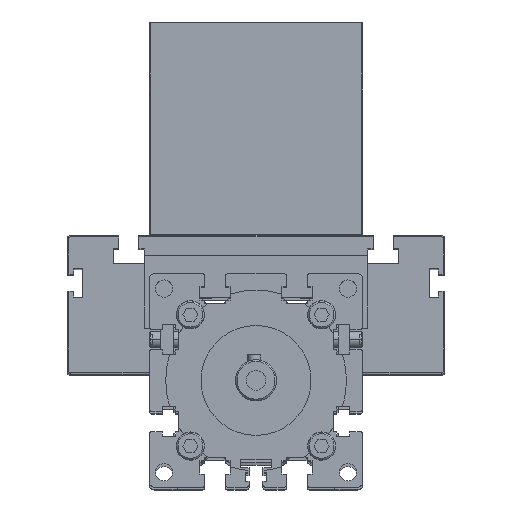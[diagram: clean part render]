
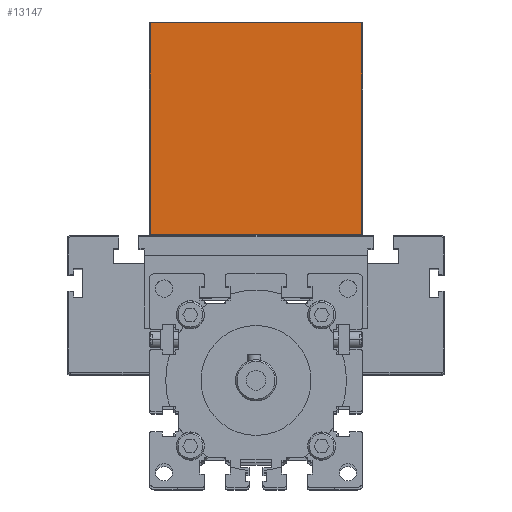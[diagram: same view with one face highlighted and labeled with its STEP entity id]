
A CAD part, top view. The second image highlights one B-rep face of the part: STEP entity #13147.
In plain terms, the highlighted planar face has unit normal (0, 0, 1).
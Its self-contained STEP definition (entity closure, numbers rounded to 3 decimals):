
#10 = VERTEX_POINT ( 'NONE', #7886 ) ;
#3272 = EDGE_LOOP ( 'NONE', ( #17641, #36966, #4857, #9806 ) ) ;
#4857 = ORIENTED_EDGE ( 'NONE', *, *, #10172, .T. ) ;
#5068 = LINE ( 'NONE', #28146, #31264 ) ;
#5372 = EDGE_CURVE ( 'NONE', #14819, #33146, #18603, .T. ) ;
#5399 = CARTESIAN_POINT ( 'NONE',  ( 130., 0., 135. ) ) ;
#7886 = CARTESIAN_POINT ( 'NONE',  ( 129.5, 0.5, 135. ) ) ;
#8184 = VERTEX_POINT ( 'NONE', #17246 ) ;
#9806 = ORIENTED_EDGE ( 'NONE', *, *, #26108, .T. ) ;
#10172 = EDGE_CURVE ( 'NONE', #33146, #8184, #5068, .T. ) ;
#13147 = ADVANCED_FACE ( 'NONE', ( #22573 ), #36648, .F. ) ;
#13217 = CARTESIAN_POINT ( 'NONE',  ( 129.5, 129.5, 135. ) ) ;
#13516 = LINE ( 'NONE', #18757, #21530 ) ;
#14819 = VERTEX_POINT ( 'NONE', #13217 ) ;
#15946 = DIRECTION ( 'NONE',  ( 1., 0., 0. ) ) ;
#17246 = CARTESIAN_POINT ( 'NONE',  ( 0.5, 0.5, 135. ) ) ;
#17641 = ORIENTED_EDGE ( 'NONE', *, *, #37298, .T. ) ;
#18603 = LINE ( 'NONE', #21791, #19965 ) ;
#18757 = CARTESIAN_POINT ( 'NONE',  ( 130., 0.5, 135. ) ) ;
#19244 = DIRECTION ( 'NONE',  ( 0., -1., 0. ) ) ;
#19541 = DIRECTION ( 'NONE',  ( -1., 0., 0. ) ) ;
#19965 = VECTOR ( 'NONE', #30215, 1000. ) ;
#20326 = AXIS2_PLACEMENT_3D ( 'NONE', #5399, #22197, #19541 ) ;
#21530 = VECTOR ( 'NONE', #15946, 1000. ) ;
#21791 = CARTESIAN_POINT ( 'NONE',  ( 130., 129.5, 135. ) ) ;
#22197 = DIRECTION ( 'NONE',  ( 0., 0., -1. ) ) ;
#22573 = FACE_OUTER_BOUND ( 'NONE', #3272, .T. ) ;
#24041 = CARTESIAN_POINT ( 'NONE',  ( 0.5, 129.5, 135. ) ) ;
#26108 = EDGE_CURVE ( 'NONE', #8184, #10, #13516, .T. ) ;
#28146 = CARTESIAN_POINT ( 'NONE',  ( 0.5, 0., 135. ) ) ;
#30215 = DIRECTION ( 'NONE',  ( -1., 0., 0. ) ) ;
#30840 = DIRECTION ( 'NONE',  ( 0., 1., 0. ) ) ;
#31004 = CARTESIAN_POINT ( 'NONE',  ( 129.5, 130., 135. ) ) ;
#31264 = VECTOR ( 'NONE', #19244, 1000. ) ;
#31276 = VECTOR ( 'NONE', #30840, 1000. ) ;
#33146 = VERTEX_POINT ( 'NONE', #24041 ) ;
#34042 = LINE ( 'NONE', #31004, #31276 ) ;
#36648 = PLANE ( 'NONE',  #20326 ) ;
#36966 = ORIENTED_EDGE ( 'NONE', *, *, #5372, .T. ) ;
#37298 = EDGE_CURVE ( 'NONE', #10, #14819, #34042, .T. ) ;
